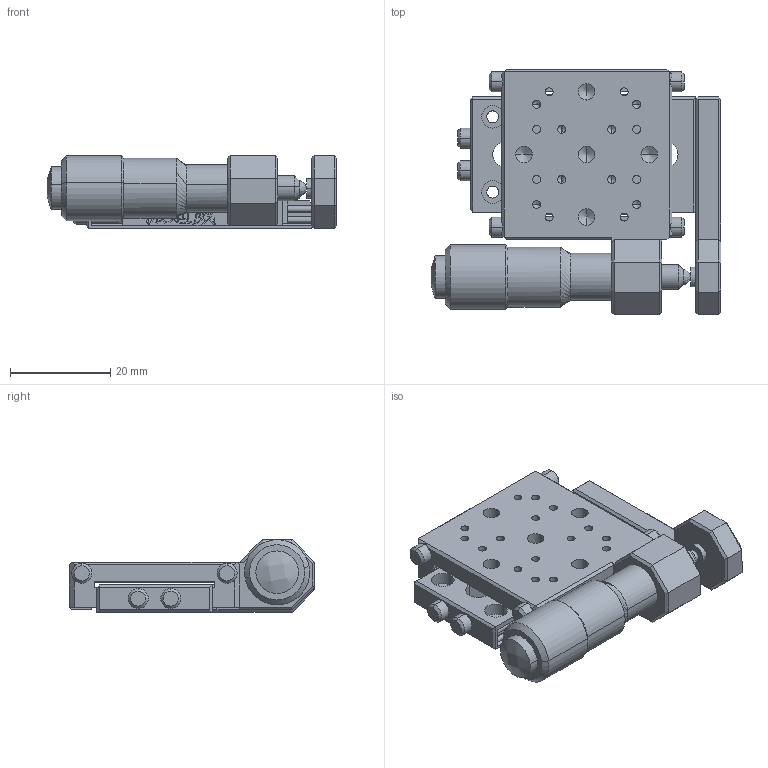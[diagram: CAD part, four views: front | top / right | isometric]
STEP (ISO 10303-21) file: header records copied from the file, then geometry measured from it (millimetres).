
FILE_DESCRIPTION (( 'STEP AP214' ), '1' );
FILE_NAME ('PP110-13-34C.STEP', '2022-09-03T03:24:17', ( '' ), ( '' ), 'SwSTEP 2.0', 'SolidWorks 2017', '' );
FILE_SCHEMA (( 'AUTOMOTIVE_DESIGN' ));
Length unit declared in the file: millimetre
Products named in the file (5): SP110-13-34C蹟恇萵釱; SP110-13-34C菁啣; SP110-13-34C怢醱; PP110-13-34C; 峚煦芛
Assembly tree (4 placements, depth 2):
  PP110-13-34C
    SP110-13-34C菁啣
    SP110-13-34C怢醱
    SP110-13-34C蹟恇萵釱
    峚煦芛
Bounding box: 57.77 x 49 x 14.5 mm (x, y, z)
Volume: 17670.7 mm3; surface area: 12599.8 mm2
Topology: 8 solids, 8 shells, 668 faces, 1766 edges, 1132 vertices
Faces by surface type: plane 369, bspline 156, cylinder 97, cone 46
Entity records: 26806 total; most frequent: CARTESIAN_POINT 11023, ORIENTED_EDGE 3476, DIRECTION 2702, EDGE_CURVE 1738, VECTOR 1176, LINE 1176, VERTEX_POINT 1132, AXIS2_PLACEMENT_3D 763
